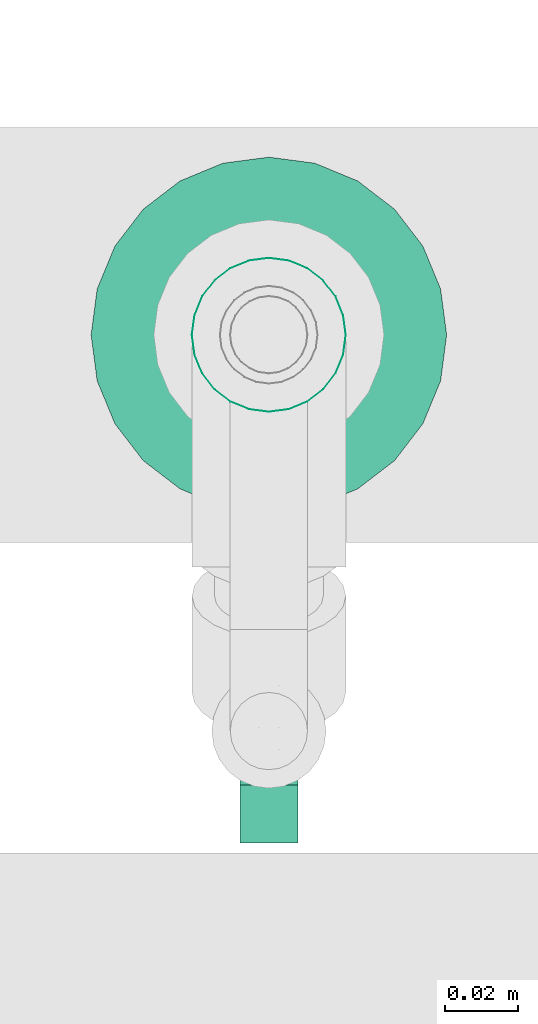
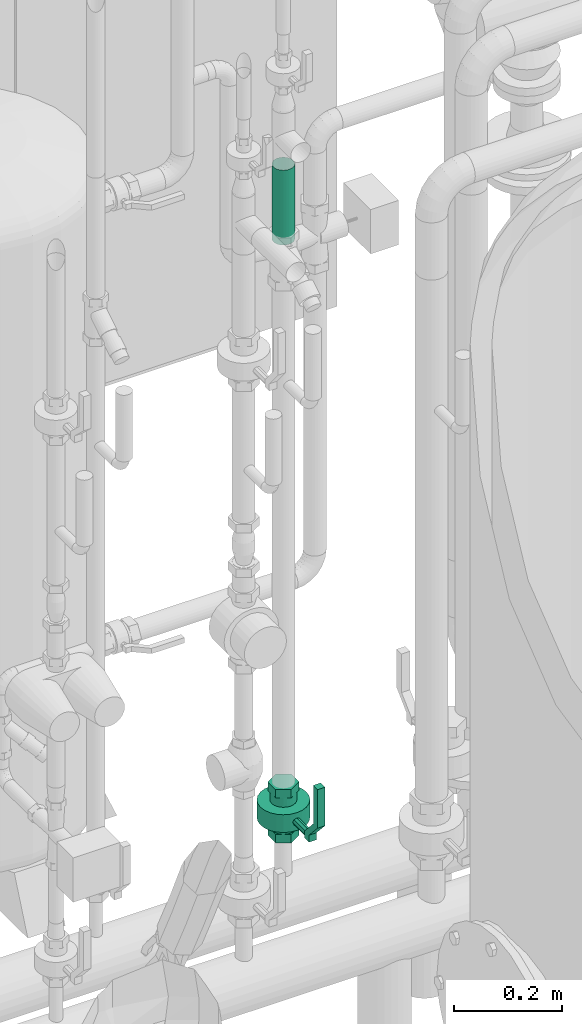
# One storey, part 274 of 374: 1 flow controller, 1 flow segment.
"""IFC2X3 building model written with IfcOpenShell, lengths in metres."""

from ifc_helpers import new_model, si_unit, direction, origin, place, context, subcontext, project, spatial, open_shell, surface_model, source, transform, mapped, element, save


model = new_model("IFC2X3")

# Units and contexts
model_context = context("Model", 3, precision=1e-05, world=origin(), true_north=direction((-0.4480736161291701, 0.8939966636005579)))
body_context = subcontext(model_context, "Body", "Model", "MODEL_VIEW")
ifc_project = project(units=[si_unit("LENGTHUNIT", "METRE"), si_unit("AREAUNIT", "SQUARE_METRE"), si_unit("VOLUMEUNIT", "CUBIC_METRE"), si_unit("PLANEANGLEUNIT", "RADIAN"), si_unit("THERMODYNAMICTEMPERATUREUNIT", "KELVIN"), si_unit("MASSUNIT", "GRAM", prefix="KILO"), si_unit("TIMEUNIT", "SECOND")], contexts=[model_context])

# Site, building, storey
site_placement = place(None, origin())
site = spatial("IfcSite", under=ifc_project, at=site_placement, Name="Site 1", CompositionType="ELEMENT")
building_placement = place(site_placement, origin())
building = spatial("IfcBuilding", under=site, at=building_placement, Name="Undefined", CompositionType="ELEMENT")
storey_placement = place(building_placement, origin())
storey = spatial("IfcBuildingStorey", under=building, at=storey_placement, Name="Rez de chauss\x8ee", CompositionType="ELEMENT", Elevation=0.0)

# Flow controller
shared_shape_1 = source(origin(), body_context, "Body", "SurfaceModel", [
    surface_model("IfcFaceBasedSurfaceModel", [(0.0, 0.015999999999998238, 0.0), (0.0, 0.0, 0.0), (0.016000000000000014, 0.0, 0.0), (0.016000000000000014, 0.015999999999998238, 0.0), (0.0, 0.0, 0.016000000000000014), (0.016000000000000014, 0.0, 0.016000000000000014), (0.0, 0.015999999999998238, 0.016000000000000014), (0.016000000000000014, 0.015999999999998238, 0.016000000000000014), (0.0, 0.051333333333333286, 0.04800000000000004), (0.016000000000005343, 0.051333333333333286, 0.04800000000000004), (0.0, 0.13800000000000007, 0.04800000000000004), (0.016000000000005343, 0.13800000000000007, 0.04800000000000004), (0.0, 0.13800000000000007, 0.03200000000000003), (0.016000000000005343, 0.13800000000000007, 0.03200000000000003), (0.0, 0.051333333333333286, 0.03200000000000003), (0.016000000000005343, 0.051333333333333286, 0.03200000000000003), (0.03300000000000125, -0.052000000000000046, -0.10643375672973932), (0.03300000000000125, -0.052000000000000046, -0.07756624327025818), (0.03300000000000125, -0.032899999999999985, -0.07756624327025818), (0.03300000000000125, -0.032899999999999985, -0.10643375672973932), (0.008000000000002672, -0.052000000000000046, -0.12086751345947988), (0.008000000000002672, -0.032899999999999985, -0.12086751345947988), (-0.016999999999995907, -0.052000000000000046, -0.10643375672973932), (-0.016999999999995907, -0.032899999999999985, -0.10643375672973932), (-0.016999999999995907, -0.052000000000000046, -0.07756624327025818), (-0.016999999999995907, -0.032899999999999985, -0.07756624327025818), (0.008000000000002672, -0.052000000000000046, -0.06313248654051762), (0.008000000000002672, -0.032899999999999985, -0.06313248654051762), (-0.016999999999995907, -0.032899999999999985, -0.09199999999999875), (-0.01614814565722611, -0.032899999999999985, -0.08552952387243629), (-0.01614814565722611, -0.01200000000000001, -0.08552952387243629), (-0.016999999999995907, -0.01200000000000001, -0.09199999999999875), (-0.0136506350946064, -0.032899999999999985, -0.07949999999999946), (-0.0136506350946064, -0.01200000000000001, -0.07949999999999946), (-0.009677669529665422, -0.032899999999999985, -0.07432233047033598), (-0.009677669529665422, -0.01200000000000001, -0.07432233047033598), (-0.0045000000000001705, -0.032899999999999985, -0.0703493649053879), (-0.0045000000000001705, -0.01200000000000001, -0.0703493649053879), (0.0015295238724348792, -0.032899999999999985, -0.06785185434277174), (0.0015295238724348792, -0.01200000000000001, -0.06785185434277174), (0.008000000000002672, -0.032899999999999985, -0.0669999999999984), (0.008000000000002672, -0.01200000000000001, -0.0669999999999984), (0.014470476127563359, -0.032899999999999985, -0.06785185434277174), (0.014470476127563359, -0.01200000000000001, -0.06785185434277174), (0.020500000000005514, -0.032899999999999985, -0.0703493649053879), (0.020500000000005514, -0.01200000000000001, -0.0703493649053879), (0.025677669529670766, -0.032899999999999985, -0.07432233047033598), (0.025677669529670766, -0.01200000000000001, -0.07432233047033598), (0.029650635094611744, -0.032899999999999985, -0.07949999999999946), (0.029650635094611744, -0.01200000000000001, -0.07949999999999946), (0.03214814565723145, -0.032899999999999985, -0.08552952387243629), (0.03214814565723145, -0.01200000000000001, -0.08552952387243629), (0.03300000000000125, -0.032899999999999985, -0.09199999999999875), (0.03300000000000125, -0.01200000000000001, -0.09199999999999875), (0.03214814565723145, -0.032899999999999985, -0.09847047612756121), (0.03214814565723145, -0.01200000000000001, -0.09847047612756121), (0.029650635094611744, -0.032899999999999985, -0.10449999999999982), (0.029650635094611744, -0.01200000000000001, -0.10449999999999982), (0.025677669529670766, -0.032899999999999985, -0.10967766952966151), (0.025677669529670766, -0.01200000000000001, -0.10967766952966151), (0.020500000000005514, -0.032899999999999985, -0.1136506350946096), (0.020500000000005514, -0.01200000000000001, -0.1136506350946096), (0.014470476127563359, -0.032899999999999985, -0.11614814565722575), (0.014470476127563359, -0.01200000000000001, -0.11614814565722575), (0.008000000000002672, -0.032899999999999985, -0.1169999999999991), (0.008000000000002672, -0.01200000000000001, -0.1169999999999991), (0.0015295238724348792, -0.032899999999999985, -0.11614814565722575), (0.0015295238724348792, -0.01200000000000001, -0.11614814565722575), (-0.0045000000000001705, -0.032899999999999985, -0.1136506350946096), (-0.0045000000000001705, -0.01200000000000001, -0.1136506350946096), (-0.009677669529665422, -0.032899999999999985, -0.10967766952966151), (-0.009677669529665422, -0.01200000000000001, -0.10967766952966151), (-0.0136506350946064, -0.032899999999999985, -0.10449999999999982), (-0.0136506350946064, -0.01200000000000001, -0.10449999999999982), (-0.01614814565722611, -0.032899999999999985, -0.09847047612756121), (-0.01614814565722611, -0.01200000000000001, -0.09847047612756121), (-0.04099999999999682, -0.01200000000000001, -0.09199999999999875), (-0.039330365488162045, -0.01200000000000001, -0.07931786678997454), (-0.039330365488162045, 0.02800000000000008, -0.07931786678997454), (-0.04099999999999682, 0.02800000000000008, -0.09199999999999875), (-0.034435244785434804, -0.01200000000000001, -0.067499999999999), (-0.034435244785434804, 0.02800000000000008, -0.067499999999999), (-0.026648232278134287, -0.01200000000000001, -0.05735176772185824), (-0.026648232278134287, 0.02800000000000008, -0.05735176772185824), (-0.016500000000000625, -0.01200000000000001, -0.049564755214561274), (-0.016500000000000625, 0.02800000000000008, -0.049564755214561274), (-0.00468213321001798, -0.01200000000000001, -0.04466963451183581), (-0.00468213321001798, 0.02800000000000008, -0.04466963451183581), (0.008000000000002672, -0.01200000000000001, -0.04299999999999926), (0.008000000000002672, 0.02800000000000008, -0.04299999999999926), (0.020682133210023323, -0.01200000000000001, -0.04466963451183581), (0.020682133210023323, 0.02800000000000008, -0.04466963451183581), (0.03250000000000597, -0.01200000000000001, -0.049564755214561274), (0.03250000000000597, 0.02800000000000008, -0.049564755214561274), (0.04264823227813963, -0.01200000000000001, -0.05735176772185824), (0.04264823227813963, 0.02800000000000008, -0.05735176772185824), (0.05043524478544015, -0.01200000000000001, -0.067499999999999), (0.05043524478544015, 0.02800000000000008, -0.067499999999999), (0.05533036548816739, -0.01200000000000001, -0.07931786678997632), (0.05533036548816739, 0.02800000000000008, -0.07931786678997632), (0.05700000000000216, -0.01200000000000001, -0.09199999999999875), (0.05700000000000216, 0.02800000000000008, -0.09199999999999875), (0.05533036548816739, -0.01200000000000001, -0.10468213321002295), (0.05533036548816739, 0.02800000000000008, -0.10468213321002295), (0.05043524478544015, -0.01200000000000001, -0.1164999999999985), (0.05043524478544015, 0.02800000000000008, -0.1164999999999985), (0.04264823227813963, -0.01200000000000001, -0.12664823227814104), (0.04264823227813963, 0.02800000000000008, -0.12664823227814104), (0.03250000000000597, -0.01200000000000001, -0.134435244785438), (0.03250000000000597, 0.02800000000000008, -0.134435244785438), (0.020682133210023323, -0.01200000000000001, -0.13933036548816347), (0.020682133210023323, 0.02800000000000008, -0.13933036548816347), (0.008000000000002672, -0.01200000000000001, -0.14100000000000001), (0.008000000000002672, 0.02800000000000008, -0.14100000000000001), (-0.00468213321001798, -0.01200000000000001, -0.13933036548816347), (-0.00468213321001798, 0.02800000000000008, -0.13933036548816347), (-0.016500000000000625, -0.01200000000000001, -0.134435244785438), (-0.016500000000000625, 0.02800000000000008, -0.134435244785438), (-0.026648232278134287, -0.01200000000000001, -0.12664823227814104), (-0.026648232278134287, 0.02800000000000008, -0.12664823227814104), (-0.034435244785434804, -0.01200000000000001, -0.1164999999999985), (-0.034435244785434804, 0.02800000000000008, -0.1164999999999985), (-0.039330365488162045, -0.01200000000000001, -0.10468213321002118), (-0.039330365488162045, 0.02800000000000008, -0.10468213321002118), (0.008000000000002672, -0.01200000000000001, -0.09199999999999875), (0.008000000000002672, 0.02800000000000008, -0.09199999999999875), (-0.016999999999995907, 0.02800000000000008, -0.09199999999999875), (-0.01614814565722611, 0.02800000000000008, -0.08552952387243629), (-0.01614814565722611, 0.0489, -0.08552952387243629), (-0.016999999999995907, 0.0489, -0.09199999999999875), (-0.0136506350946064, 0.02800000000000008, -0.07949999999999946), (-0.0136506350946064, 0.0489, -0.07949999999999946), (-0.009677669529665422, 0.02800000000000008, -0.07432233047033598), (-0.009677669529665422, 0.0489, -0.07432233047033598), (-0.0045000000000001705, 0.02800000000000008, -0.0703493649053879), (-0.0045000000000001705, 0.0489, -0.0703493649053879), (0.0015295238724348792, 0.02800000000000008, -0.06785185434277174), (0.0015295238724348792, 0.0489, -0.06785185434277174), (0.008000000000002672, 0.02800000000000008, -0.0669999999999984), (0.008000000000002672, 0.0489, -0.0669999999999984), (0.014470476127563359, 0.02800000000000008, -0.06785185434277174), (0.014470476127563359, 0.0489, -0.06785185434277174), (0.020500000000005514, 0.02800000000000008, -0.0703493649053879), (0.020500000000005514, 0.0489, -0.0703493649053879), (0.025677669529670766, 0.02800000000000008, -0.07432233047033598), (0.025677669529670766, 0.0489, -0.07432233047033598), (0.029650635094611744, 0.02800000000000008, -0.07949999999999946), (0.029650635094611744, 0.0489, -0.07949999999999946), (0.03214814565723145, 0.02800000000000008, -0.08552952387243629), (0.03214814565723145, 0.0489, -0.08552952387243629), (0.03300000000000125, 0.02800000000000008, -0.09199999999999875), (0.03300000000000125, 0.0489, -0.09199999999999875), (0.03214814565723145, 0.02800000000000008, -0.09847047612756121), (0.03214814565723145, 0.0489, -0.09847047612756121), (0.029650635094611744, 0.02800000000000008, -0.10449999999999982), (0.029650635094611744, 0.0489, -0.10449999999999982), (0.025677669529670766, 0.02800000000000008, -0.10967766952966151), (0.025677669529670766, 0.0489, -0.10967766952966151), (0.020500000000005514, 0.02800000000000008, -0.1136506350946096), (0.020500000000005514, 0.0489, -0.1136506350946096), (0.014470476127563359, 0.02800000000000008, -0.11614814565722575), (0.014470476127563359, 0.0489, -0.11614814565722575), (0.008000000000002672, 0.02800000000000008, -0.1169999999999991), (0.008000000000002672, 0.0489, -0.1169999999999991), (0.0015295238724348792, 0.02800000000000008, -0.11614814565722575), (0.0015295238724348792, 0.0489, -0.11614814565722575), (-0.0045000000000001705, 0.02800000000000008, -0.1136506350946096), (-0.0045000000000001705, 0.0489, -0.1136506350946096), (-0.009677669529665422, 0.02800000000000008, -0.10967766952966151), (-0.009677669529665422, 0.0489, -0.10967766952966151), (-0.0136506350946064, 0.02800000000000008, -0.10449999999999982), (-0.0136506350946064, 0.0489, -0.10449999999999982), (-0.01614814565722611, 0.02800000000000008, -0.09847047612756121), (-0.01614814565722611, 0.0489, -0.09847047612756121), (0.03300000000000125, 0.0489, -0.10643375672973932), (0.03300000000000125, 0.0489, -0.07756624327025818), (0.03300000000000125, 0.068, -0.07756624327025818), (0.03300000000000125, 0.068, -0.10643375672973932), (0.008000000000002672, 0.0489, -0.12086751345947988), (0.008000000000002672, 0.068, -0.12086751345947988), (-0.016999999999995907, 0.0489, -0.10643375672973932), (-0.016999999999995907, 0.068, -0.10643375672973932), (-0.016999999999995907, 0.0489, -0.07756624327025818), (-0.016999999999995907, 0.068, -0.07756624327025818), (0.008000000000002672, 0.0489, -0.06313248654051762), (0.008000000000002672, 0.068, -0.06313248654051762), (0.008000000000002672, 0.01599999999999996, -0.09199999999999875), (0.002343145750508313, 0.013656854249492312, -0.09199999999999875), (0.002343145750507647, 0.013656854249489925, 0.0), (0.008000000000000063, 0.015999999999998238, 0.0), (0.0, 0.007999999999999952, -0.09199999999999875), (0.0, 0.008, 0.0), (0.002343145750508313, 0.0023431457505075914, -0.09199999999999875), (0.002343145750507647, 0.002343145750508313, 0.0), (0.008000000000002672, 0.0, -0.09199999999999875), (0.008000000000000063, 0.0, 0.0), (0.01365685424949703, 0.0023431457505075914, -0.09199999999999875), (0.013656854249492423, 0.002343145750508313, 0.0), (0.016000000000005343, 0.007999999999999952, -0.09199999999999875), (0.016000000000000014, 0.008000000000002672, 0.0), (0.01365685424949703, 0.013656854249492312, -0.09199999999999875), (0.013656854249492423, 0.013656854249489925, 0.0)], [open_shell([[[0, 1, 2, 3]], [[1, 4, 5, 2]], [[4, 6, 7, 5]], [[6, 8, 9, 7]], [[8, 10, 11, 9]], [[10, 12, 13, 11]], [[12, 14, 15, 13]], [[14, 0, 3, 15]], [[3, 7, 2]], [[7, 3, 9]], [[15, 9, 3]], [[9, 15, 11]], [[13, 11, 15]], [[5, 2, 7]], [[1, 6, 0]], [[8, 0, 6]], [[0, 8, 14]], [[10, 14, 8]], [[14, 10, 12]], [[6, 1, 4]], [[16, 17, 18, 19]], [[20, 16, 19, 21]], [[22, 20, 21, 23]], [[24, 22, 23, 25]], [[26, 24, 25, 27]], [[17, 26, 27, 18]], [[17, 16, 20]], [[17, 20, 22]], [[17, 22, 24]], [[17, 24, 26]], [[18, 21, 19]], [[18, 23, 21]], [[18, 25, 23]], [[18, 27, 25]], [[28, 29, 30, 31]], [[29, 32, 33, 30]], [[32, 34, 35, 33]], [[34, 36, 37, 35]], [[36, 38, 39, 37]], [[38, 40, 41, 39]], [[40, 42, 43, 41]], [[42, 44, 45, 43]], [[44, 46, 47, 45]], [[46, 48, 49, 47]], [[48, 50, 51, 49]], [[50, 52, 53, 51]], [[52, 54, 55, 53]], [[54, 56, 57, 55]], [[56, 58, 59, 57]], [[58, 60, 61, 59]], [[60, 62, 63, 61]], [[62, 64, 65, 63]], [[64, 66, 67, 65]], [[66, 68, 69, 67]], [[68, 70, 71, 69]], [[70, 72, 73, 71]], [[72, 74, 75, 73]], [[74, 28, 31, 75]], [[76, 77, 78, 79]], [[77, 80, 81, 78]], [[80, 82, 83, 81]], [[82, 84, 85, 83]], [[84, 86, 87, 85]], [[86, 88, 89, 87]], [[88, 90, 91, 89]], [[90, 92, 93, 91]], [[92, 94, 95, 93]], [[94, 96, 97, 95]], [[96, 98, 99, 97]], [[98, 100, 101, 99]], [[100, 102, 103, 101]], [[102, 104, 105, 103]], [[104, 106, 107, 105]], [[106, 108, 109, 107]], [[108, 110, 111, 109]], [[110, 112, 113, 111]], [[112, 114, 115, 113]], [[114, 116, 117, 115]], [[116, 118, 119, 117]], [[118, 120, 121, 119]], [[120, 122, 123, 121]], [[122, 76, 79, 123]], [[124, 77, 76]], [[124, 80, 77]], [[124, 82, 80]], [[124, 84, 82]], [[124, 86, 84]], [[124, 88, 86]], [[124, 90, 88]], [[124, 92, 90]], [[124, 94, 92]], [[124, 96, 94]], [[124, 98, 96]], [[124, 100, 98]], [[124, 102, 100]], [[124, 104, 102]], [[124, 106, 104]], [[124, 108, 106]], [[124, 110, 108]], [[124, 112, 110]], [[124, 114, 112]], [[124, 116, 114]], [[124, 118, 116]], [[124, 120, 118]], [[124, 122, 120]], [[124, 76, 122]], [[125, 123, 79]], [[125, 121, 123]], [[125, 119, 121]], [[125, 117, 119]], [[125, 115, 117]], [[125, 113, 115]], [[125, 111, 113]], [[125, 109, 111]], [[125, 107, 109]], [[125, 105, 107]], [[125, 103, 105]], [[125, 101, 103]], [[125, 99, 101]], [[125, 97, 99]], [[125, 95, 97]], [[125, 93, 95]], [[125, 91, 93]], [[125, 89, 91]], [[125, 87, 89]], [[125, 85, 87]], [[125, 83, 85]], [[125, 81, 83]], [[125, 78, 81]], [[125, 79, 78]], [[126, 127, 128, 129]], [[127, 130, 131, 128]], [[130, 132, 133, 131]], [[132, 134, 135, 133]], [[134, 136, 137, 135]], [[136, 138, 139, 137]], [[138, 140, 141, 139]], [[140, 142, 143, 141]], [[142, 144, 145, 143]], [[144, 146, 147, 145]], [[146, 148, 149, 147]], [[148, 150, 151, 149]], [[150, 152, 153, 151]], [[152, 154, 155, 153]], [[154, 156, 157, 155]], [[156, 158, 159, 157]], [[158, 160, 161, 159]], [[160, 162, 163, 161]], [[162, 164, 165, 163]], [[164, 166, 167, 165]], [[166, 168, 169, 167]], [[168, 170, 171, 169]], [[170, 172, 173, 171]], [[172, 126, 129, 173]], [[174, 175, 176, 177]], [[178, 174, 177, 179]], [[180, 178, 179, 181]], [[182, 180, 181, 183]], [[184, 182, 183, 185]], [[175, 184, 185, 176]], [[175, 174, 178]], [[175, 178, 180]], [[175, 180, 182]], [[175, 182, 184]], [[176, 179, 177]], [[176, 181, 179]], [[176, 183, 181]], [[176, 185, 183]], [[186, 187, 188, 189]], [[187, 190, 191, 188]], [[190, 192, 193, 191]], [[192, 194, 195, 193]], [[194, 196, 197, 195]], [[196, 198, 199, 197]], [[198, 200, 201, 199]], [[200, 186, 189, 201]]])]),
])
flow_controller_placement = place(storey_placement, origin())
element("IfcFlowController", 1, at=flow_controller_placement, inside=storey, Name="Robinet à boisseau sphérique", ObjectType="Robinet à boisseau sphérique", context=body_context, shape_type="MappedRepresentation", body=[
    mapped(shared_shape_1, transform((53.849562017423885, 10.82603704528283, 0.49004999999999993), x_axis=(1.0, 0.0, 0.0), y_axis=(0.0, 0.0, 1.0), z_axis=(0.0, -1.0, 0.0))),
])

# Flow segment
shared_shape_2 = source(origin(), body_context, "Body", "SurfaceModel", [
    surface_model("IfcFaceBasedSurfaceModel", [(0.0, 0.005534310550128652, 0.0), (0.0, 0.0, 0.0), (0.16854698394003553, 0.0, 7.105427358e-15), (0.16854698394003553, 0.00553431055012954, 7.105427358e-15), (0.0, -0.00534573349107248, -0.0014323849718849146), (0.16854698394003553, -0.005345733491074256, -0.0014323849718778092), (0.0, -0.010138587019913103, -0.004199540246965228), (0.16854698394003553, -0.010138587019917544, -0.004199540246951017), (0.0, -0.01405193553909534, -0.008112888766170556), (0.16854698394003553, -0.014051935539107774, -0.00811288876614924), (0.0, -0.016819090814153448, -0.012905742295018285), (0.16854698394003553, -0.01681909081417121, -0.012905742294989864), (0.0, -0.018251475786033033, -0.018251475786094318), (0.16854698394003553, -0.01825147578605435, -0.01825147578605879), (0.0, -0.0182514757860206, -0.02378578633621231), (0.16854698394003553, -0.018251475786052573, -0.023785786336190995), (0.0, -0.01681909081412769, -0.029131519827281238), (0.16854698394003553, -0.016819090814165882, -0.029131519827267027), (0.0, -0.014051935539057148, -0.03392437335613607), (0.16854698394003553, -0.014051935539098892, -0.03392437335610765), (0.0, -0.010138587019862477, -0.037837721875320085), (0.16854698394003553, -0.010138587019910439, -0.037837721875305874), (0.0, -0.005345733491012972, -0.040604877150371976), (0.16854698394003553, -0.005345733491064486, -0.04060487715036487), (0.0, 6.4837024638e-14, -0.042037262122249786), (0.16854698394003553, 1.0658141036e-14, -0.04203726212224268), (0.0, 0.005534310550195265, -0.04203726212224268), (0.16854698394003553, 0.005534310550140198, -0.042037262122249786), (0.0, 0.010880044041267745, -0.04060487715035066), (0.16854698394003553, 0.010880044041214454, -0.04060487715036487), (0.0, 0.01567289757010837, -0.03783772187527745), (0.16854698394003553, 0.01567289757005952, -0.03783772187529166), (0.0, 0.019586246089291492, -0.033924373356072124), (0.16854698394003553, 0.01958624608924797, -0.033924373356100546), (0.0, 0.0223534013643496, -0.029131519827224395), (0.16854698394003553, 0.022353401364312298, -0.029131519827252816), (0.0, 0.02378578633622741, -0.023785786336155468), (0.16854698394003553, 0.023785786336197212, -0.02378578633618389), (0.0, 0.023785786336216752, -0.01825147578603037), (0.16854698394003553, 0.02378578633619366, -0.018251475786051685), (0.0, 0.022353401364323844, -0.012905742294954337), (0.16854698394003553, 0.02235340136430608, -0.012905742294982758), (0.0, 0.019586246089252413, -0.008112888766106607), (0.16854698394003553, 0.019586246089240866, -0.008112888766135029), (0.0, 0.015672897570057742, -0.004199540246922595), (0.16854698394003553, 0.015672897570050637, -0.004199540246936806), (0.0, 0.010880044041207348, -0.0014323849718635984), (0.16854698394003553, 0.010880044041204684, -0.0014323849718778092)], [open_shell([[[0, 1, 2, 3]], [[1, 4, 5, 2]], [[4, 6, 7, 5]], [[6, 8, 9, 7]], [[8, 10, 11, 9]], [[10, 12, 13, 11]], [[12, 14, 15, 13]], [[14, 16, 17, 15]], [[16, 18, 19, 17]], [[18, 20, 21, 19]], [[20, 22, 23, 21]], [[22, 24, 25, 23]], [[24, 26, 27, 25]], [[26, 28, 29, 27]], [[28, 30, 31, 29]], [[30, 32, 33, 31]], [[32, 34, 35, 33]], [[34, 36, 37, 35]], [[36, 38, 39, 37]], [[38, 40, 41, 39]], [[40, 42, 43, 41]], [[42, 44, 45, 43]], [[44, 46, 47, 45]], [[46, 0, 3, 47]]])]),
])
flow_segment_placement = place(storey_placement, origin())
element("IfcFlowSegment", 2, at=flow_segment_placement, inside=storey, Name="Tube acier d'après DIN 2448", ObjectType="Tube acier d'après DIN 2448", context=body_context, shape_type="MappedRepresentation", body=[
    mapped(shared_shape_2, transform((53.83708438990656, 10.912550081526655, 1.781773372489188), x_axis=(0.0, 0.0, 1.0), y_axis=(-0.13052619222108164, 0.9914448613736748, 0.0), z_axis=(-0.9914448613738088, -0.13052619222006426, 0.0))),
])

save(model, "model.ifc")
